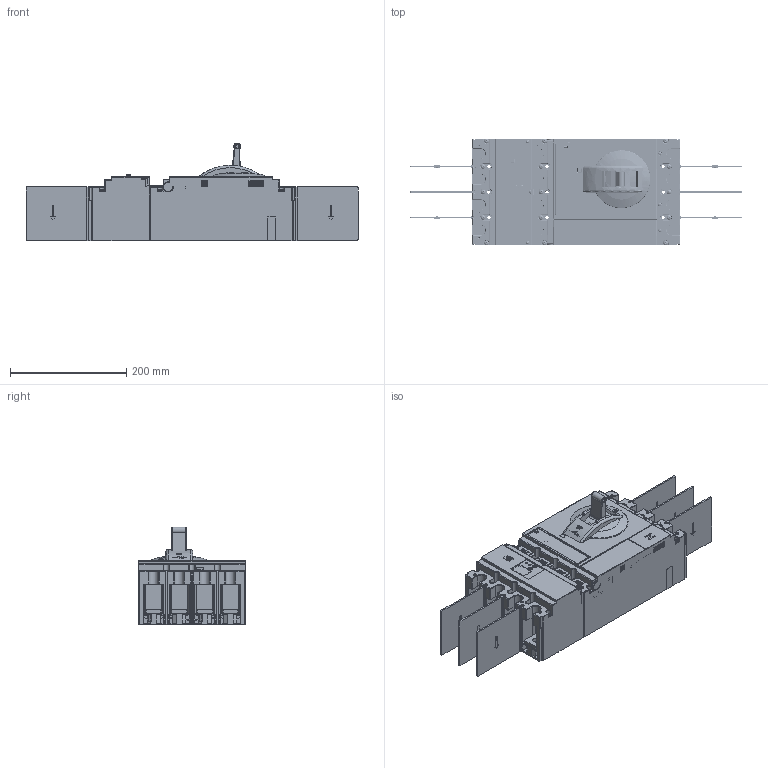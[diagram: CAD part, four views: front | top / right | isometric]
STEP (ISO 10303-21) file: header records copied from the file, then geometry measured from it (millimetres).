
FILE_DESCRIPTION(/* description */ (''),/* implementation_level */ '2;1');
FILE_NAME(/* name */ 'CM5L-400 四极 2022.9.8.stp',/* time_stamp */ '2022-09-08T13:07:54+08:00',/* author */ (''),/* organization */ (''),/* preprocessor_version */ 'ST-DEVELOPER v16.7',/* originating_system */ 'SIEMENS PLM Software NX 12.0',/* authorisation */ '');
FILE_SCHEMA (('AUTOMOTIVE_DESIGN { 1 0 10303 214 3 1 1 1 }'));
Products named in the file (1): .
Bounding box: 571.9 x 184 x 168.7 mm (x, y, z)
Volume: 6186101 mm3; surface area: 750847.6 mm2
Topology: 7 solids, 133 shells, 6853 faces, 18480 edges, 11700 vertices
Faces by surface type: plane 4359, cylinder 1893, torus 272, sphere 192, bspline 70, cone 38, extrusion 29
Full cylindrical faces by diameter (mm): 1.6 x2, 2.3 x4, 2.4 x4, 2.5 x5, 2.52 x1, 2.9 x3, 3 x6, 3.2 x10, 3.3 x27, 3.5 x6, 4 x25, 4.3 x26, 4.6 x2, 5 x3, 5.23 x3, 5.5 x9, 5.6 x8, 6 x11, 6.5 x6, 7 x2, 7.2 x2, 7.9 x3, 8 x17, 8.5 x2, 9 x7, 9.5 x9, 11 x8, 12 x4, 15 x4, 19 x8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
Entity records: 215543 total; most frequent: CARTESIAN_POINT 42208, DIRECTION 35858, ORIENTED_EDGE 35472, EDGE_CURVE 17736, VECTOR 12310, LINE 12281, AXIS2_PLACEMENT_3D 11774, VERTEX_POINT 11486
